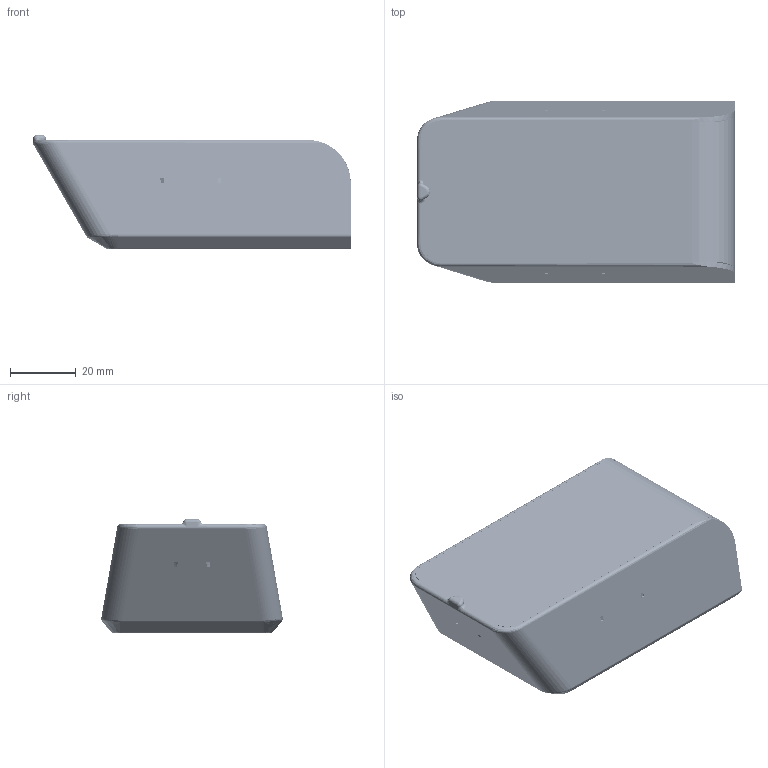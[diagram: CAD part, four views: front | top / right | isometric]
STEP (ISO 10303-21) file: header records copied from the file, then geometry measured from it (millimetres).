
FILE_DESCRIPTION(/* description */ (''),/* implementation_level */ '2;1');
FILE_NAME(/* name */ 'C:\Users\ga_ma\Downloads\Fab Academy 2024\Final project\2_CAD\LightModule_VF.stp',/* time_stamp */ '2024-06-30T06:00:47-05:00',/* author */ ('ga_ma'),/* organization */ (''),/* preprocessor_version */ 'ST-DEVELOPER v19',/* originating_system */ 'Autodesk Inventor 2023',/* authorisation */ '');
FILE_SCHEMA (('AUTOMOTIVE_DESIGN { 1 0 10303 214 3 1 1 }'));
Products named in the file (12): LightModule_V1; LightModule_PCB_V1; Document; Seeeduino XIAO SAMD21 v4; Component1; Socket 7 PIN - Female; Seeed Studio XIAO-ESP32-C3; Molex Connector - Male 3 pin; Resistencia SMD_100ohms; LighModule_Case; LightModule_Difusor; LED RGB
Assembly tree (22 placements, depth 4):
  LightModule_V1
    LightModule_PCB_V1
      Document
      Socket 7 PIN - Female  x2
      Seeeduino XIAO SAMD21 v4
        Component1
        Socket 7 PIN - Female  x2
      Seeed Studio XIAO-ESP32-C3
      Molex Connector - Male 3 pin  x3
      Resistencia SMD_100ohms  x6
    LED RGB  x2
    LighModule_Case
    LightModule_Difusor
Bounding box: 96.27 x 55.12 x 34.5 mm (x, y, z)
Volume: 43840.1 mm3; surface area: 55256.3 mm2
Topology: 188 solids, 196 shells, 6257 faces, 15954 edges, 10492 vertices
Faces by surface type: plane 3472, bspline 1497, cylinder 1018, cone 202, torus 43, sphere 25
Full cylindrical faces by diameter (mm): 0.5 x9, 0.51 x32, 0.6 x2, 0.7 x20, 0.75 x14, 0.8 x14, 1 x68, 1.2 x29, 1.3 x1, 1.32 x84, 1.5 x2, 1.524 x6, 1.65 x1, 1.83 x24, 1.9 x1, 2 x2, 2.032 x6, 3.9 x18, 4 x1, 5.047 x2, 10 x3
Entity records: 205445 total; most frequent: CARTESIAN_POINT 89635, ORIENTED_EDGE 25560, DIRECTION 19302, EDGE_CURVE 12780, LINE 8502, VECTOR 8502, VERTEX_POINT 8404, EDGE_LOOP 5438
